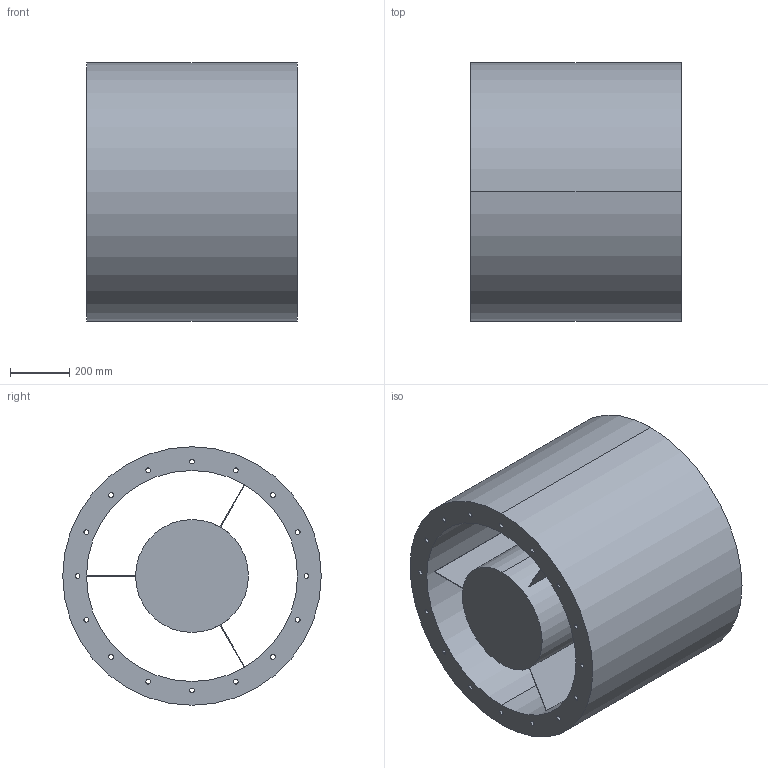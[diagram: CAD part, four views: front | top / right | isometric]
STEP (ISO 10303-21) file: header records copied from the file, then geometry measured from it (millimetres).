
FILE_DESCRIPTION(('STEP AP214'),'1');
FILE_NAME('accessory_5211814900.stp','2017-10-09T11:37:54',('TraceParts'),('TraceParts S.A.'),'Spatial InterOp 3D',' ',' ');
FILE_SCHEMA(('automotive_design'));
Length unit declared in the file: millimetre
Products named in the file (1): accessory_5211814900
Bounding box: 710 x 870 x 870 mm (x, y, z)
Volume: 208245749 mm3; surface area: 5843583.3 mm2
Topology: 1 solids, 1 shells, 56 faces, 155 edges, 103 vertices
Faces by surface type: cylinder 38, plane 16, torus 2
Entity records: 2384 total; most frequent: DIRECTION 362, CARTESIAN_POINT 315, ORIENTED_EDGE 310, EDGE_CURVE 155, AXIS2_PLACEMENT_3D 150, VERTEX_POINT 103, EDGE_LOOP 96, CIRCLE 93
